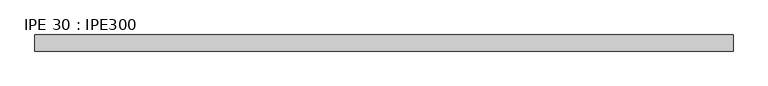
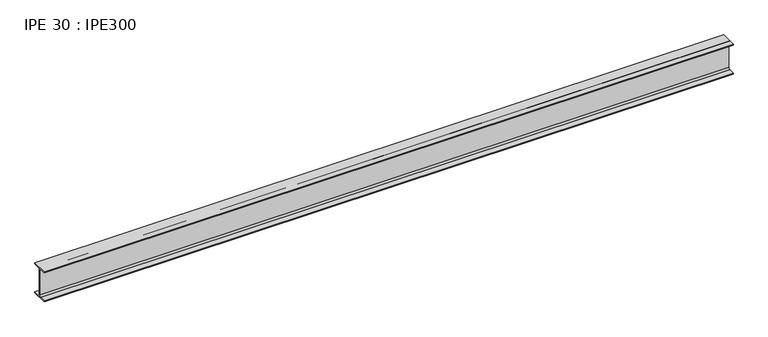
"""IFC4 building model written with IfcOpenShell, lengths in millimetres: beam geometry, IPE 30 : IPE300."""

from ifc_helpers import new_model, si_unit, point, frame, frame_2d, origin, place, context, project, spatial, polyline, circle_curve, trimmed, segment, composite_curve, outline, extrude, source, transform, mapped, element, save


def ipe_30_ipe300_ae94c4ad(model_context):
    return source(origin(), model_context, "Body", "SweptSolid", [
        extrude(outline(composite_curve([segment(polyline([(75.0, -139.3), (75.0, -150.0), (-75.0, -150.0), (-75.0, -139.3), (-18.55, -139.3)]), True, "CONTINUOUS"), segment(trimmed(circle_curve(frame_2d((-18.55, -124.3)), 15.0), [point((-18.55, -139.3))], [point((-3.55, -124.3))], True, "CARTESIAN"), True, "CONTINUOUS"), segment(polyline([(-3.55, -124.3), (-3.55, 124.3)]), True, "CONTINUOUS"), segment(trimmed(circle_curve(frame_2d((-18.55, 124.3)), 15.0), [point((-3.55, 124.3))], [point((-18.55, 139.3))], True, "CARTESIAN"), True, "CONTINUOUS"), segment(polyline([(-18.55, 139.3), (-75.0, 139.3), (-75.0, 150.0), (75.0, 150.0), (75.0, 139.3), (18.55, 139.3)]), True, "CONTINUOUS"), segment(trimmed(circle_curve(frame_2d((18.55, 124.3)), 15.0), [point((18.55, 139.3))], [point((3.55, 124.3))], True, "CARTESIAN"), True, "CONTINUOUS"), segment(polyline([(3.55, 124.3), (3.55, -124.3)]), True, "CONTINUOUS"), segment(trimmed(circle_curve(frame_2d((18.55, -124.3)), 15.0), [point((3.55, -124.3))], [point((18.55, -139.3))], True, "CARTESIAN"), True, "CONTINUOUS"), segment(polyline([(18.55, -139.3), (75.0, -139.3)]), True, "CONTINUOUS")], self_intersect=False)), frame((-3247.5, 0.0, 0.0), z_axis=(1.0, 0.0, 0.0), x_axis=(0.0, 1.0, 0.0)), (0.0, 0.0, 1.0), 6495.0),
    ])


if __name__ == "__main__":
    model = new_model("IFC4")
    model_context = context("Model", 3, world=origin())
    ifc_project = project(units=[si_unit("LENGTHUNIT", "METRE", prefix="MILLI")], contexts=[model_context])
    site = spatial("IfcSite", under=ifc_project)
    building = spatial("IfcBuilding", under=site)
    placement = place(None, origin())
    ipe_30_ipe300_shape = ipe_30_ipe300_ae94c4ad(model_context)
    element("IfcBeam", 1, ObjectType="IPE 30 : IPE300", at=placement, inside=building, context=model_context, shape_type="MappedRepresentation", body=[
        mapped(ipe_30_ipe300_shape, transform((0.0, 0.0, 0.0), x_axis=(1.0, 0.0, 0.0), y_axis=(0.0, 1.0, 0.0), z_axis=(0.0, 0.0, 1.0))),
    ])
    save(model, "model.ifc")
